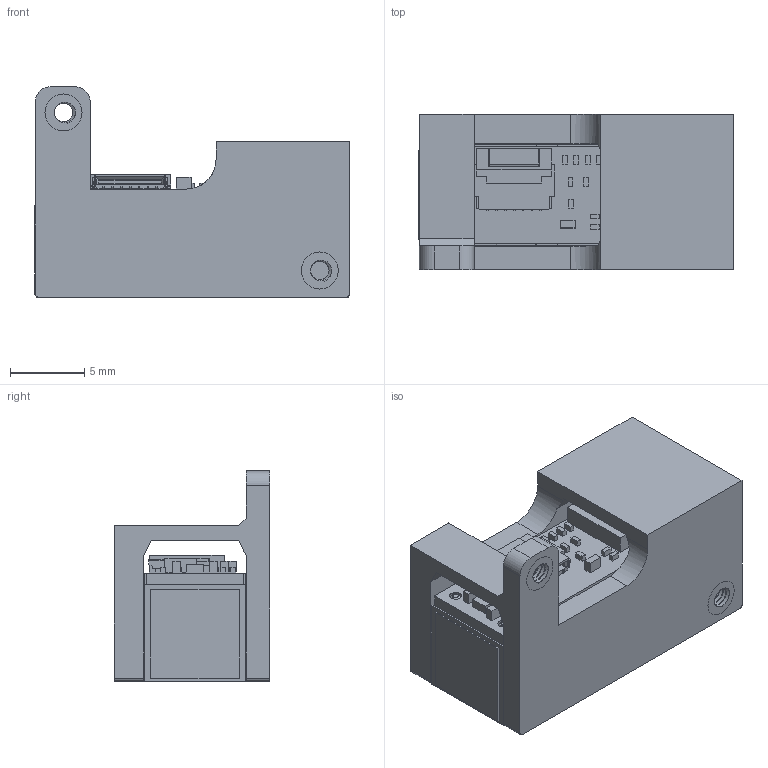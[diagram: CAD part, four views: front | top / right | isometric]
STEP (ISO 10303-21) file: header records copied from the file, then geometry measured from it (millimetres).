
FILE_DESCRIPTION((''),'2;1');
FILE_NAME('RT214B_ASM','2021-06-10T',('bao'),(''),'PRO/ENGINEER BY PARAMETRIC TECHNOLOGY CORPORATION, 2010280','PRO/ENGINEER BY PARAMETRIC TECHNOLOGY CORPORATION, 2010280','');
FILE_SCHEMA(('CONFIG_CONTROL_DESIGN'));
Length unit declared in the file: millimetre
Products named in the file (5): RT214B-20200623-1638_3; PLASTIC-FIX_18; NUT_5; ASM0002_ASM_1_ASM; RT214B_ASM
Assembly tree (5 placements, depth 3):
  RT214B_ASM
    ASM0002_ASM_1_ASM
      RT214B-20200623-1638_3
      PLASTIC-FIX_18
      NUT_5  x2
Bounding box: 21.25 x 10.5 x 14.2 mm (x, y, z)
Volume: 844.1 mm3; surface area: 2740.2 mm2
Topology: 4 solids, 6 shells, 1070 faces, 2990 edges, 1925 vertices
Faces by surface type: plane 823, cylinder 174, bspline 38, cone 31, torus 4
Entity records: 40199 total; most frequent: CARTESIAN_POINT 13267, ORIENTED_EDGE 5805, DIRECTION 5201, EDGE_CURVE 2910, VECTOR 2165, LINE 2165, VERTEX_POINT 1869, AXIS2_PLACEMENT_3D 1518
